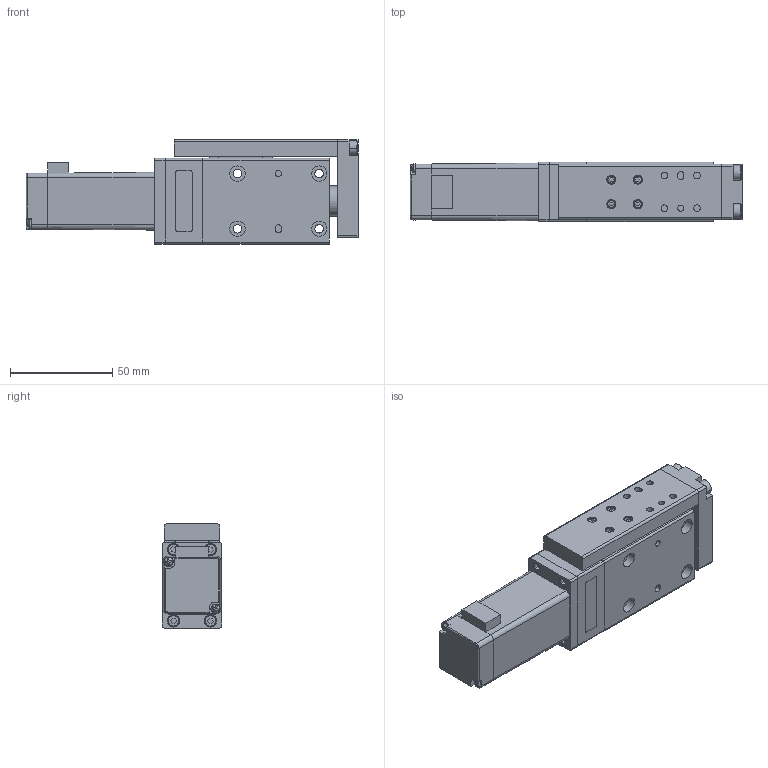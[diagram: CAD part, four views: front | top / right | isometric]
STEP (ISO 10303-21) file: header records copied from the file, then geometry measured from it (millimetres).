
FILE_DESCRIPTION (( 'STEP AP203' ), '1' );
FILE_NAME ('SSA16（ST=25）外形尺寸.STEP', '2024-11-13T09:11:03', ( '微软用户' ), ( '微软中国' ), 'SwSTEP 2.0', 'SolidWorks 2018', '' );
FILE_SCHEMA (( 'CONFIG_CONTROL_DESIGN' ));
Length unit declared in the file: millimetre
Products named in the file (13): 复件 SVS-24SSA16-B002  BLOCK（润扬：RN7H）^SSA16（ST=25）外形尺寸; 复件 (2) 28闭环步进电机-客用3D^SSA16（ST=25）外形尺寸; 复件 内六角杯头螺钉M4-10^SSA16（ST=25）外形尺寸; 复件 SVS-24SSA16-P001-01  FRAME（ST=25）^SSA16（ST=25）外形尺寸; 复件 内六角杯头螺钉M3-8^SSA16（ST=25）外形尺寸; 复件 SVS-24SSA16-P002  空心圆杆 (ST=25)^SSA16（ST=25）外形尺寸; 复件 内六角杯头螺钉M2-6^SSA16（ST=25）外形尺寸; 复件  SVS-24SSA16-P005  电机座^SSA16（ST=25）外形尺寸; 复件 SVS-24SSA16-P004  MOTOR PLATE^SSA16（ST=25）外形尺寸; SSA16（ST=25）外形尺寸; 复件 SVS-24SSA16-P006  安装板^SSA16（ST=25）外形尺寸; 复件 SVS-24SSA16-P007-01  滑台板（ST=25）^SSA16（ST=25）外形尺寸; 复件 SVS-24SSA16-B002  RAIL（润扬：RN7-长度）ST=25^SSA16（ST=25）外形尺寸
Assembly tree (24 placements, depth 2):
  SSA16（ST=25）外形尺寸
    复件 SVS-24SSA16-P001-01  FRAME（ST=25）^SSA16（ST=25）外形尺寸
    复件 SVS-24SSA16-P002  空心圆杆 (ST=25)^SSA16（ST=25）外形尺寸
    复件 SVS-24SSA16-P004  MOTOR PLATE^SSA16（ST=25）外形尺寸
    复件  SVS-24SSA16-P005  电机座^SSA16（ST=25）外形尺寸
    复件 SVS-24SSA16-P006  安装板^SSA16（ST=25）外形尺寸
    复件 SVS-24SSA16-P007-01  滑台板（ST=25）^SSA16（ST=25）外形尺寸
    复件 SVS-24SSA16-B002  RAIL（润扬：RN7-长度）ST=25^SSA16（ST=25）外形尺寸
    复件 SVS-24SSA16-B002  BLOCK（润扬：RN7H）^SSA16（ST=25）外形尺寸
    复件 (2) 28闭环步进电机-客用3D^SSA16（ST=25）外形尺寸
    复件 内六角杯头螺钉M4-10^SSA16（ST=25）外形尺寸  x3
    复件 内六角杯头螺钉M3-8^SSA16（ST=25）外形尺寸  x4
    复件 内六角杯头螺钉M2-6^SSA16（ST=25）外形尺寸  x8
Bounding box: 162.6 x 29 x 51 mm (x, y, z)
Volume: 179474.2 mm3; surface area: 51090 mm2
Topology: 26 solids, 26 shells, 821 faces, 1934 edges, 1211 vertices
Faces by surface type: plane 354, cylinder 302, cone 95, torus 62, bspline 8
Entity records: 19183 total; most frequent: CARTESIAN_POINT 3391, DIRECTION 3123, ORIENTED_EDGE 2772, EDGE_CURVE 1386, AXIS2_PLACEMENT_3D 1180, VERTEX_POINT 899, VECTOR 763, LINE 763
